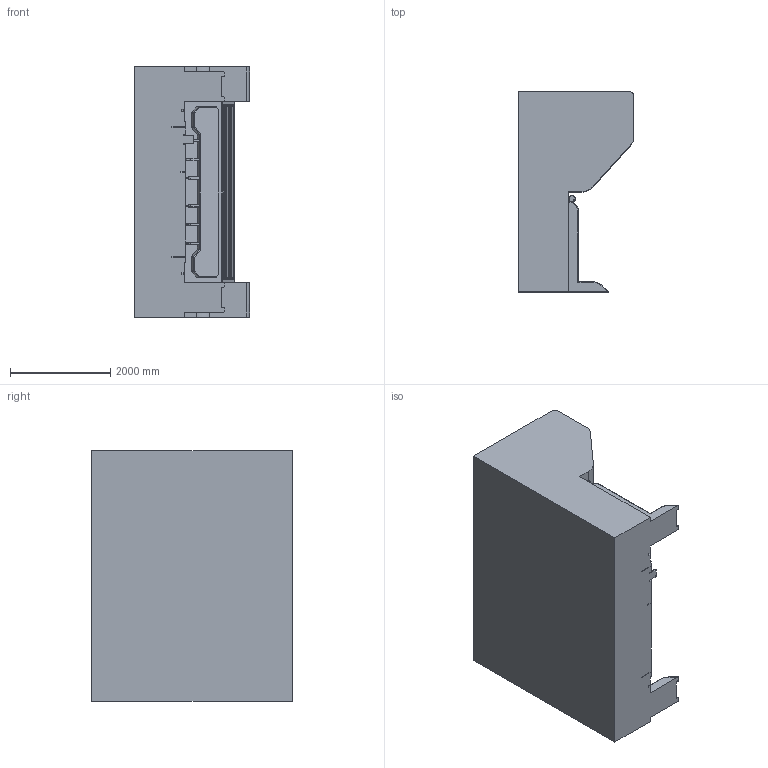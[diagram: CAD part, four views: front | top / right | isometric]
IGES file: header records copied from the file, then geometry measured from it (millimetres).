
Global section: file name: Wall1; native system: unknown; preprocessor: unknown; author: unknown; organization: unknown; date: 20220707.142200; units: centimetre
Bounding box: 2300 x 4000 x 5000 mm (x, y, z)
Volume: 29452218350.1 mm3; surface area: 88384251.1 mm2
Topology: 2 solids, 2 shells, 1436 faces, 3633 edges, 2206 vertices
Faces by surface type: bspline 1436
